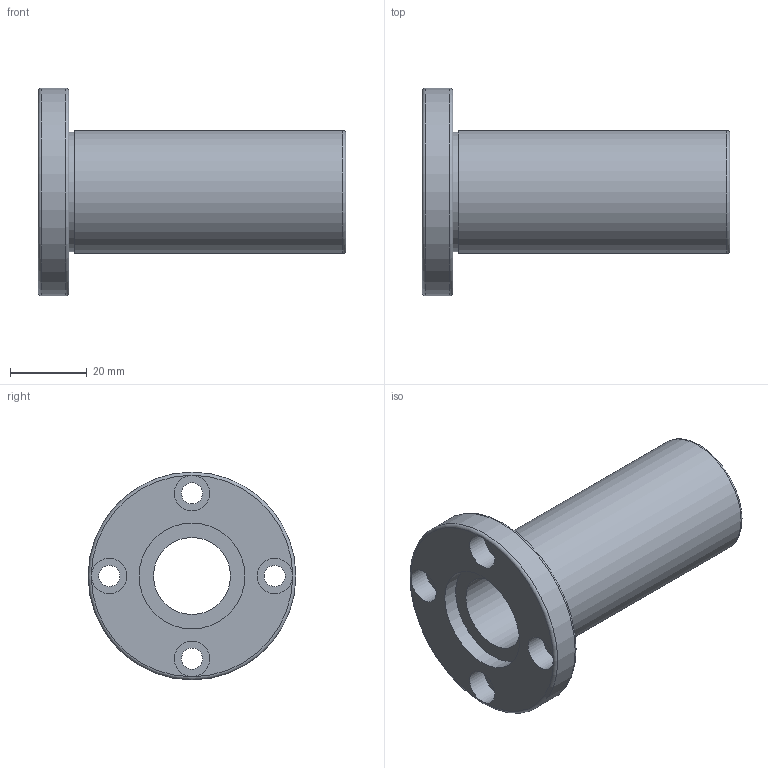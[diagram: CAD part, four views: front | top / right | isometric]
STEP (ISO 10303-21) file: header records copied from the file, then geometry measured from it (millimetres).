
FILE_DESCRIPTION( ( 'Unknown' ), '1' );
FILE_NAME( 'D:/累诀/己绕皋墨飘肺葱胶/11-04-06_档搁累己/01_府聪绢何教/LMF L/LMF 20L.stp', 'Unknown', ( 'Unknown' ), ( 'Unknown' ), 'PSStep 11.0', 'Unknown', ' ' );
FILE_SCHEMA( ( 'AUTOMOTIVE_DESIGN { 1 0 10303 214 1 1 1 1 }' ) );
Length unit declared in the file: millimetre
Products named in the file (1): 1
Bounding box: 80 x 54 x 54 mm (x, y, z)
Volume: 47039.3 mm3; surface area: 18318.9 mm2
Topology: 1 solids, 1 shells, 27 faces, 52 edges, 35 vertices
Faces by surface type: cylinder 14, plane 10, torus 3
Full cylindrical faces by diameter (mm): 5.5 x4, 9.2 x4, 20 x1, 27.5 x2, 31 x1, 32 x1, 54 x1
Entity records: 836 total; most frequent: DIRECTION 118, CARTESIAN_POINT 90, EDGE_LOOP 62, ORIENTED_EDGE 62, AXIS2_PLACEMENT_3D 59, FACE_OUTER_BOUND 44, EDGE_CURVE 31, VERTEX_POINT 31
